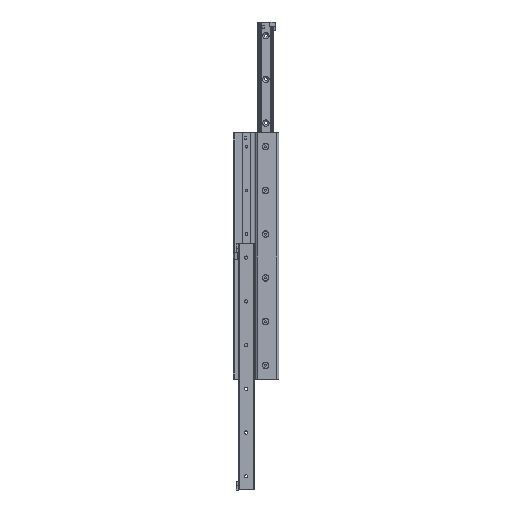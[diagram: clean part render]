
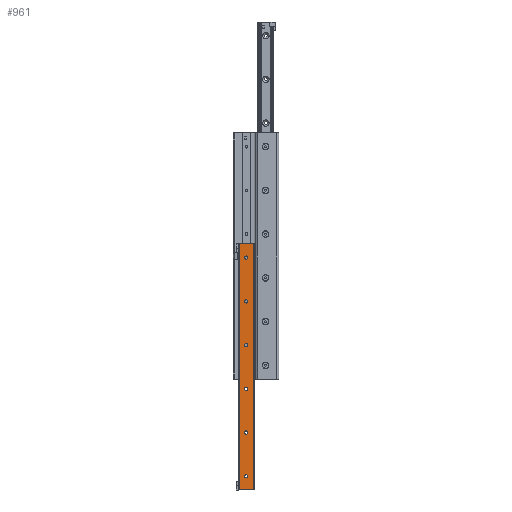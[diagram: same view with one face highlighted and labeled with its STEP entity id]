
A CAD part, left-side view. The second image highlights one B-rep face of the part: STEP entity #961.
In plain terms, the highlighted planar face has unit normal (-1, 0, 0).
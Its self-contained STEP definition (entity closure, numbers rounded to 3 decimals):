
#2 = CARTESIAN_POINT ( 'NONE',  ( 0., 13.45, 425. ) ) ;
#24 = CARTESIAN_POINT ( 'NONE',  ( 0., 13.45, 345. ) ) ;
#137 = EDGE_CURVE ( 'NONE', #4733, #4448, #1252, .T. ) ;
#207 = CARTESIAN_POINT ( 'NONE',  ( 0., 13.45, 185. ) ) ;
#269 = DIRECTION ( 'NONE',  ( 1., 0., 0. ) ) ;
#360 = LINE ( 'NONE', #3947, #8258 ) ;
#652 = ORIENTED_EDGE ( 'NONE', *, *, #3690, .F. ) ;
#758 = CARTESIAN_POINT ( 'NONE',  ( 0., 13.45, 25. ) ) ;
#795 = DIRECTION ( 'NONE',  ( 0., 0., -1. ) ) ;
#797 = LINE ( 'NONE', #9460, #9034 ) ;
#871 = FACE_BOUND ( 'NONE', #8867, .T. ) ;
#886 = CIRCLE ( 'NONE', #6184, 3. ) ;
#940 = DIRECTION ( 'NONE',  ( 1., 0., 0. ) ) ;
#961 = ADVANCED_FACE ( 'NONE', ( #9727, #4209, #871, #3611, #2896, #7324, #3975 ), #4547, .F. ) ;
#994 = CARTESIAN_POINT ( 'NONE',  ( 0., 13.45, 265. ) ) ;
#1029 = ORIENTED_EDGE ( 'NONE', *, *, #4826, .T. ) ;
#1041 = CARTESIAN_POINT ( 'NONE',  ( 0., 10.45, 25. ) ) ;
#1074 = CARTESIAN_POINT ( 'NONE',  ( 0., 10.45, 265. ) ) ;
#1252 = CIRCLE ( 'NONE', #4239, 3. ) ;
#1323 = VECTOR ( 'NONE', #5452, 1000. ) ;
#1402 = DIRECTION ( 'NONE',  ( 0., -1., 0. ) ) ;
#1415 = CARTESIAN_POINT ( 'NONE',  ( 0., 27., 450. ) ) ;
#1422 = AXIS2_PLACEMENT_3D ( 'NONE', #2, #3864, #795 ) ;
#1430 = CARTESIAN_POINT ( 'NONE',  ( 0., 16.45, 345. ) ) ;
#1468 = CARTESIAN_POINT ( 'NONE',  ( 0., 13.45, 105. ) ) ;
#1507 = CIRCLE ( 'NONE', #3704, 3. ) ;
#1520 = CIRCLE ( 'NONE', #2208, 3. ) ;
#1585 = CIRCLE ( 'NONE', #6624, 3. ) ;
#1622 = EDGE_CURVE ( 'NONE', #6116, #8686, #1585, .T. ) ;
#1717 = CARTESIAN_POINT ( 'NONE',  ( 0., 13.45, 25. ) ) ;
#1797 = EDGE_LOOP ( 'NONE', ( #7668, #8342 ) ) ;
#1849 = ORIENTED_EDGE ( 'NONE', *, *, #5041, .T. ) ;
#1898 = AXIS2_PLACEMENT_3D ( 'NONE', #994, #269, #4063 ) ;
#1982 = ORIENTED_EDGE ( 'NONE', *, *, #7770, .T. ) ;
#2050 = CARTESIAN_POINT ( 'NONE',  ( 0., 16.45, 425. ) ) ;
#2208 = AXIS2_PLACEMENT_3D ( 'NONE', #3732, #2908, #4440 ) ;
#2252 = EDGE_CURVE ( 'NONE', #8478, #9633, #7580, .T. ) ;
#2330 = EDGE_CURVE ( 'NONE', #9273, #5078, #886, .T. ) ;
#2485 = VERTEX_POINT ( 'NONE', #7254 ) ;
#2513 = DIRECTION ( 'NONE',  ( 0., 0., -1. ) ) ;
#2525 = CARTESIAN_POINT ( 'NONE',  ( 0., 1., 450. ) ) ;
#2680 = ORIENTED_EDGE ( 'NONE', *, *, #7107, .T. ) ;
#2706 = ORIENTED_EDGE ( 'NONE', *, *, #137, .T. ) ;
#2742 = CIRCLE ( 'NONE', #5729, 3. ) ;
#2792 = EDGE_CURVE ( 'NONE', #8686, #6116, #5762, .T. ) ;
#2896 = FACE_BOUND ( 'NONE', #8033, .T. ) ;
#2908 = DIRECTION ( 'NONE',  ( 1., 0., 0. ) ) ;
#2915 = CARTESIAN_POINT ( 'NONE',  ( 0., 27., 450. ) ) ;
#3006 = CARTESIAN_POINT ( 'NONE',  ( 0., 10.45, 425. ) ) ;
#3114 = CARTESIAN_POINT ( 'NONE',  ( 0., 13.45, 185. ) ) ;
#3137 = DIRECTION ( 'NONE',  ( 1., 0., 0. ) ) ;
#3152 = CIRCLE ( 'NONE', #1422, 3. ) ;
#3178 = AXIS2_PLACEMENT_3D ( 'NONE', #24, #9951, #4625 ) ;
#3589 = LINE ( 'NONE', #9300, #1323 ) ;
#3611 = FACE_BOUND ( 'NONE', #1797, .T. ) ;
#3690 = EDGE_CURVE ( 'NONE', #7982, #2485, #360, .T. ) ;
#3691 = CARTESIAN_POINT ( 'NONE',  ( 0., 27., 0. ) ) ;
#3702 = CARTESIAN_POINT ( 'NONE',  ( 0., 16.45, 105. ) ) ;
#3704 = AXIS2_PLACEMENT_3D ( 'NONE', #3114, #940, #3905 ) ;
#3732 = CARTESIAN_POINT ( 'NONE',  ( 0., 13.45, 425. ) ) ;
#3761 = CARTESIAN_POINT ( 'NONE',  ( 0., 10.45, 345. ) ) ;
#3787 = AXIS2_PLACEMENT_3D ( 'NONE', #1717, #3137, #6303 ) ;
#3864 = DIRECTION ( 'NONE',  ( 1., 0., 0. ) ) ;
#3905 = DIRECTION ( 'NONE',  ( 0., 0., -1. ) ) ;
#3947 = CARTESIAN_POINT ( 'NONE',  ( 0., 1., 450. ) ) ;
#3975 = FACE_BOUND ( 'NONE', #6867, .T. ) ;
#4063 = DIRECTION ( 'NONE',  ( 0., 0., -1. ) ) ;
#4145 = DIRECTION ( 'NONE',  ( 0., 0., -1. ) ) ;
#4209 = FACE_OUTER_BOUND ( 'NONE', #6354, .T. ) ;
#4239 = AXIS2_PLACEMENT_3D ( 'NONE', #207, #7830, #6407 ) ;
#4385 = EDGE_CURVE ( 'NONE', #9633, #8478, #2742, .T. ) ;
#4395 = DIRECTION ( 'NONE',  ( 1., 0., 0. ) ) ;
#4440 = DIRECTION ( 'NONE',  ( 0., 0., -1. ) ) ;
#4448 = VERTEX_POINT ( 'NONE', #5506 ) ;
#4547 = PLANE ( 'NONE',  #4650 ) ;
#4625 = DIRECTION ( 'NONE',  ( 0., 0., -1. ) ) ;
#4650 = AXIS2_PLACEMENT_3D ( 'NONE', #2915, #7534, #9028 ) ;
#4733 = VERTEX_POINT ( 'NONE', #6690 ) ;
#4802 = CARTESIAN_POINT ( 'NONE',  ( 0., 13.45, 345. ) ) ;
#4826 = EDGE_CURVE ( 'NONE', #5078, #9273, #6679, .T. ) ;
#5041 = EDGE_CURVE ( 'NONE', #6551, #2485, #6205, .T. ) ;
#5078 = VERTEX_POINT ( 'NONE', #3761 ) ;
#5114 = VERTEX_POINT ( 'NONE', #3006 ) ;
#5250 = EDGE_CURVE ( 'NONE', #6808, #5631, #7512, .T. ) ;
#5402 = EDGE_LOOP ( 'NONE', ( #9694, #7922 ) ) ;
#5452 = DIRECTION ( 'NONE',  ( 0., 0., -1. ) ) ;
#5506 = CARTESIAN_POINT ( 'NONE',  ( 0., 10.45, 185. ) ) ;
#5582 = DIRECTION ( 'NONE',  ( 1., 0., 0. ) ) ;
#5599 = ORIENTED_EDGE ( 'NONE', *, *, #6832, .F. ) ;
#5608 = AXIS2_PLACEMENT_3D ( 'NONE', #758, #7696, #8420 ) ;
#5631 = VERTEX_POINT ( 'NONE', #5766 ) ;
#5701 = VERTEX_POINT ( 'NONE', #2050 ) ;
#5729 = AXIS2_PLACEMENT_3D ( 'NONE', #8652, #7803, #7160 ) ;
#5746 = EDGE_LOOP ( 'NONE', ( #8271, #8335 ) ) ;
#5762 = CIRCLE ( 'NONE', #8302, 3. ) ;
#5766 = CARTESIAN_POINT ( 'NONE',  ( 0., 16.45, 25. ) ) ;
#5999 = CIRCLE ( 'NONE', #3787, 3. ) ;
#6116 = VERTEX_POINT ( 'NONE', #7113 ) ;
#6184 = AXIS2_PLACEMENT_3D ( 'NONE', #4802, #5582, #4145 ) ;
#6205 = LINE ( 'NONE', #3691, #7182 ) ;
#6303 = DIRECTION ( 'NONE',  ( 0., 0., -1. ) ) ;
#6354 = EDGE_LOOP ( 'NONE', ( #1849, #652, #5599, #9872 ) ) ;
#6407 = DIRECTION ( 'NONE',  ( 0., 0., -1. ) ) ;
#6463 = EDGE_CURVE ( 'NONE', #5701, #5114, #1520, .T. ) ;
#6513 = DIRECTION ( 'NONE',  ( 0., -1., 0. ) ) ;
#6551 = VERTEX_POINT ( 'NONE', #9086 ) ;
#6624 = AXIS2_PLACEMENT_3D ( 'NONE', #1468, #9220, #8324 ) ;
#6679 = CIRCLE ( 'NONE', #3178, 3. ) ;
#6690 = CARTESIAN_POINT ( 'NONE',  ( 0., 16.45, 185. ) ) ;
#6805 = ORIENTED_EDGE ( 'NONE', *, *, #2330, .T. ) ;
#6808 = VERTEX_POINT ( 'NONE', #1041 ) ;
#6832 = EDGE_CURVE ( 'NONE', #8638, #7982, #797, .T. ) ;
#6867 = EDGE_LOOP ( 'NONE', ( #1982, #7599 ) ) ;
#7107 = EDGE_CURVE ( 'NONE', #4448, #4733, #1507, .T. ) ;
#7113 = CARTESIAN_POINT ( 'NONE',  ( 0., 10.45, 105. ) ) ;
#7160 = DIRECTION ( 'NONE',  ( 0., 0., -1. ) ) ;
#7182 = VECTOR ( 'NONE', #1402, 1000. ) ;
#7254 = CARTESIAN_POINT ( 'NONE',  ( 0., 1., 0. ) ) ;
#7324 = FACE_BOUND ( 'NONE', #5402, .T. ) ;
#7372 = CARTESIAN_POINT ( 'NONE',  ( 0., 13.45, 105. ) ) ;
#7512 = CIRCLE ( 'NONE', #5608, 3. ) ;
#7534 = DIRECTION ( 'NONE',  ( 1., 0., 0. ) ) ;
#7580 = CIRCLE ( 'NONE', #1898, 3. ) ;
#7599 = ORIENTED_EDGE ( 'NONE', *, *, #5250, .T. ) ;
#7668 = ORIENTED_EDGE ( 'NONE', *, *, #2252, .T. ) ;
#7696 = DIRECTION ( 'NONE',  ( 1., 0., 0. ) ) ;
#7770 = EDGE_CURVE ( 'NONE', #5631, #6808, #5999, .T. ) ;
#7803 = DIRECTION ( 'NONE',  ( 1., 0., 0. ) ) ;
#7830 = DIRECTION ( 'NONE',  ( 1., 0., 0. ) ) ;
#7922 = ORIENTED_EDGE ( 'NONE', *, *, #1622, .T. ) ;
#7958 = CARTESIAN_POINT ( 'NONE',  ( 0., 16.45, 265. ) ) ;
#7982 = VERTEX_POINT ( 'NONE', #2525 ) ;
#8033 = EDGE_LOOP ( 'NONE', ( #2706, #2680 ) ) ;
#8183 = EDGE_CURVE ( 'NONE', #5114, #5701, #3152, .T. ) ;
#8258 = VECTOR ( 'NONE', #2513, 1000. ) ;
#8271 = ORIENTED_EDGE ( 'NONE', *, *, #6463, .T. ) ;
#8302 = AXIS2_PLACEMENT_3D ( 'NONE', #7372, #4395, #9753 ) ;
#8324 = DIRECTION ( 'NONE',  ( 0., 0., -1. ) ) ;
#8335 = ORIENTED_EDGE ( 'NONE', *, *, #8183, .T. ) ;
#8342 = ORIENTED_EDGE ( 'NONE', *, *, #4385, .T. ) ;
#8420 = DIRECTION ( 'NONE',  ( 0., 0., -1. ) ) ;
#8478 = VERTEX_POINT ( 'NONE', #7958 ) ;
#8638 = VERTEX_POINT ( 'NONE', #1415 ) ;
#8652 = CARTESIAN_POINT ( 'NONE',  ( 0., 13.45, 265. ) ) ;
#8686 = VERTEX_POINT ( 'NONE', #3702 ) ;
#8833 = EDGE_CURVE ( 'NONE', #8638, #6551, #3589, .T. ) ;
#8867 = EDGE_LOOP ( 'NONE', ( #6805, #1029 ) ) ;
#9028 = DIRECTION ( 'NONE',  ( 0., 0., -1. ) ) ;
#9034 = VECTOR ( 'NONE', #6513, 1000. ) ;
#9086 = CARTESIAN_POINT ( 'NONE',  ( 0., 27., 0. ) ) ;
#9220 = DIRECTION ( 'NONE',  ( 1., 0., 0. ) ) ;
#9273 = VERTEX_POINT ( 'NONE', #1430 ) ;
#9300 = CARTESIAN_POINT ( 'NONE',  ( 0., 27., 450. ) ) ;
#9460 = CARTESIAN_POINT ( 'NONE',  ( 0., 27., 450. ) ) ;
#9633 = VERTEX_POINT ( 'NONE', #1074 ) ;
#9694 = ORIENTED_EDGE ( 'NONE', *, *, #2792, .T. ) ;
#9727 = FACE_BOUND ( 'NONE', #5746, .T. ) ;
#9753 = DIRECTION ( 'NONE',  ( 0., 0., -1. ) ) ;
#9872 = ORIENTED_EDGE ( 'NONE', *, *, #8833, .T. ) ;
#9951 = DIRECTION ( 'NONE',  ( 1., 0., 0. ) ) ;
